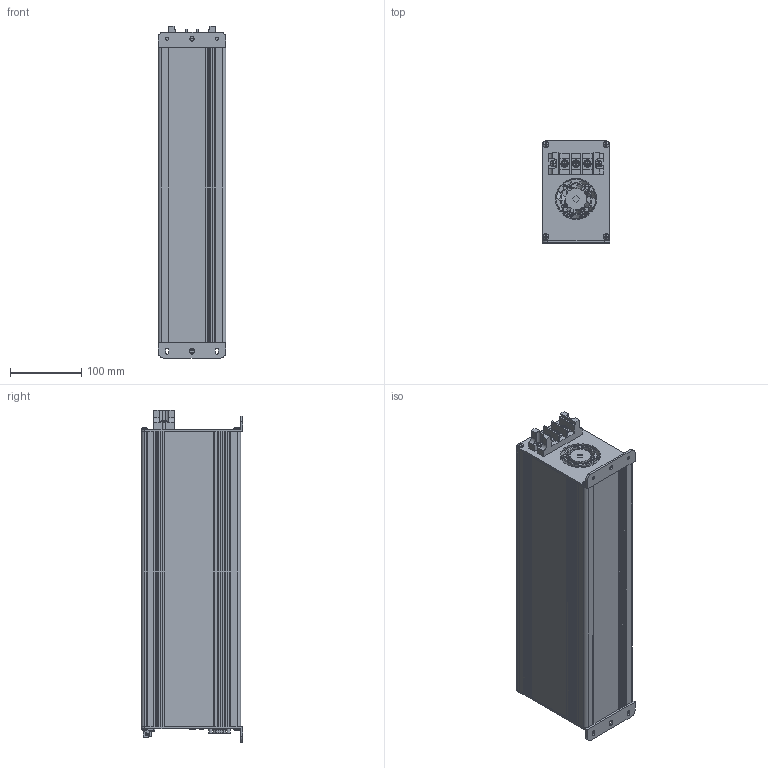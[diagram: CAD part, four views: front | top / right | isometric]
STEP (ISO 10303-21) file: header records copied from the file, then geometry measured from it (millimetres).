
FILE_DESCRIPTION(/* description */ ('','CAx-IF Rec.Pracs.---Representation and Presentation of Product Manufacturing Information (PMI)---4.0---2014-10-13'),/* implementation_level */ '2;1');
FILE_NAME(/* name */ 'H:\04_배터리_전기종\고부하용 배터리 케이스_3D\[NEW] DVCOM 설계자용\DV415COM.stp',/* time_stamp */ '2022-06-16T12:55:00+09:00',/* author */ ('jjang'),/* organization */ (''),/* preprocessor_version */ 'ST-DEVELOPER v18.1',/* originating_system */ 'Autodesk Inventor 2021',/* authorisation */ '');
FILE_SCHEMA (('AP242_MANAGED_MODEL_BASED_3D_ENGINEERING_MIM_LF { 1 0 10303 442 1 1 4 }'));
Products named in the file (1): DV415COM_Shrinkwrap_1
Bounding box: 95.5 x 142.98 x 467.5 mm (x, y, z)
Volume: 748152.3 mm3; surface area: 525061.7 mm2
Topology: 3 solids, 3 shells, 2640 faces, 8412 edges, 6035 vertices
Faces by surface type: plane 1478, cylinder 661, bspline 392, torus 81, sphere 17, cone 11
Full cylindrical faces by diameter (mm): 0.457 x2, 0.61 x27, 0.635 x9, 0.9 x2, 1.397 x9, 2.286 x9, 2.4 x2, 2.8 x6, 2.9 x2, 3.048 x4, 3.8 x10, 3.9 x2, 4 x3, 4.3 x4, 4.4 x2, 4.5 x10, 5 x8, 5.5 x6, 6 x3, 6.082 x1, 6.5 x1, 8 x1, 8.584 x3, 8.6 x3, 8.8 x7, 9.2 x2, 10 x1, 25.4 x1, 55.4 x1
Entity records: 111689 total; most frequent: CARTESIAN_POINT 36804, ORIENTED_EDGE 16794, DIRECTION 12941, EDGE_CURVE 8397, VERTEX_POINT 6034, LINE 4483, VECTOR 4483, AXIS2_PLACEMENT_3D 4229
